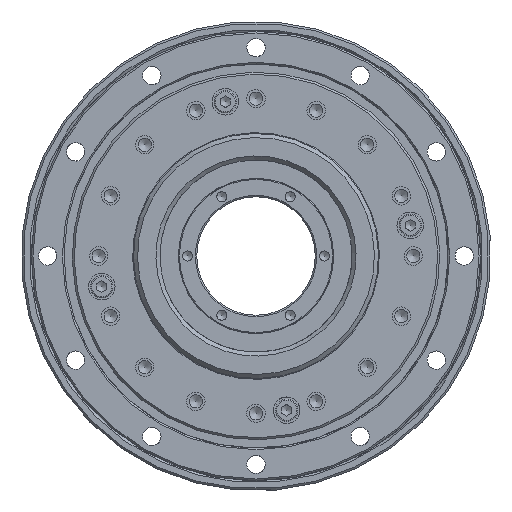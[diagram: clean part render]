
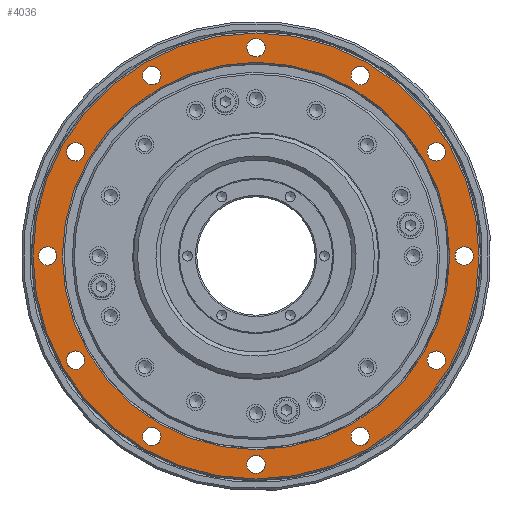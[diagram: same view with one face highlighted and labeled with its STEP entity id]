
A CAD part, left-side view. The second image highlights one B-rep face of the part: STEP entity #4036.
In plain terms, the highlighted planar face has unit normal (-1, 0, 0).
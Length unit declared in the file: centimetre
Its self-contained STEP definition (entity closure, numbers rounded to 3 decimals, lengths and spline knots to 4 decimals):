
#834=FACE_BOUND($,#1644,.T.);
#835=FACE_BOUND($,#1645,.T.);
#836=FACE_BOUND($,#1646,.T.);
#837=FACE_BOUND($,#1647,.T.);
#838=FACE_BOUND($,#1648,.T.);
#839=FACE_BOUND($,#1649,.T.);
#840=FACE_BOUND($,#1650,.T.);
#841=FACE_BOUND($,#1651,.T.);
#842=FACE_BOUND($,#1652,.T.);
#843=FACE_BOUND($,#1653,.T.);
#844=FACE_BOUND($,#1654,.T.);
#845=FACE_BOUND($,#1655,.T.);
#846=FACE_BOUND($,#1656,.T.);
#847=FACE_BOUND($,#1657,.T.);
#1644=EDGE_LOOP($,(#3428));
#1645=EDGE_LOOP($,(#3429));
#1646=EDGE_LOOP($,(#3430));
#1647=EDGE_LOOP($,(#3431));
#1648=EDGE_LOOP($,(#3432));
#1649=EDGE_LOOP($,(#3433));
#1650=EDGE_LOOP($,(#3434));
#1651=EDGE_LOOP($,(#3435));
#1652=EDGE_LOOP($,(#3436));
#1653=EDGE_LOOP($,(#3437));
#1654=EDGE_LOOP($,(#3438));
#1655=EDGE_LOOP($,(#3439));
#1656=EDGE_LOOP($,(#3440));
#1657=EDGE_LOOP($,(#3441));
#1979=CIRCLE($,#4554,0.225);
#1981=CIRCLE($,#4557,0.225);
#1983=CIRCLE($,#4560,0.225);
#1985=CIRCLE($,#4563,0.225);
#1987=CIRCLE($,#4566,0.225);
#1989=CIRCLE($,#4569,0.225);
#1991=CIRCLE($,#4572,0.225);
#1993=CIRCLE($,#4575,0.225);
#1995=CIRCLE($,#4578,0.225);
#1997=CIRCLE($,#4581,0.225);
#1999=CIRCLE($,#4584,0.225);
#2001=CIRCLE($,#4587,0.225);
#2002=CIRCLE($,#4589,4.74);
#2003=CIRCLE($,#4591,5.46);
#2301=VERTEX_POINT($,#6840);
#2303=VERTEX_POINT($,#6845);
#2305=VERTEX_POINT($,#6850);
#2307=VERTEX_POINT($,#6855);
#2309=VERTEX_POINT($,#6860);
#2311=VERTEX_POINT($,#6865);
#2313=VERTEX_POINT($,#6870);
#2315=VERTEX_POINT($,#6875);
#2317=VERTEX_POINT($,#6880);
#2319=VERTEX_POINT($,#6885);
#2321=VERTEX_POINT($,#6890);
#2323=VERTEX_POINT($,#6895);
#2324=VERTEX_POINT($,#6898);
#2325=VERTEX_POINT($,#6901);
#2697=EDGE_CURVE($,#2301,#2301,#1979,.T.);
#2699=EDGE_CURVE($,#2303,#2303,#1981,.T.);
#2701=EDGE_CURVE($,#2305,#2305,#1983,.T.);
#2703=EDGE_CURVE($,#2307,#2307,#1985,.T.);
#2705=EDGE_CURVE($,#2309,#2309,#1987,.T.);
#2707=EDGE_CURVE($,#2311,#2311,#1989,.T.);
#2709=EDGE_CURVE($,#2313,#2313,#1991,.T.);
#2711=EDGE_CURVE($,#2315,#2315,#1993,.T.);
#2713=EDGE_CURVE($,#2317,#2317,#1995,.T.);
#2715=EDGE_CURVE($,#2319,#2319,#1997,.T.);
#2717=EDGE_CURVE($,#2321,#2321,#1999,.T.);
#2719=EDGE_CURVE($,#2323,#2323,#2001,.T.);
#2720=EDGE_CURVE($,#2324,#2324,#2002,.T.);
#2721=EDGE_CURVE($,#2325,#2325,#2003,.T.);
#3428=ORIENTED_EDGE($,*,*,#2697,.T.);
#3429=ORIENTED_EDGE($,*,*,#2699,.T.);
#3430=ORIENTED_EDGE($,*,*,#2701,.T.);
#3431=ORIENTED_EDGE($,*,*,#2703,.T.);
#3432=ORIENTED_EDGE($,*,*,#2705,.T.);
#3433=ORIENTED_EDGE($,*,*,#2707,.T.);
#3434=ORIENTED_EDGE($,*,*,#2709,.T.);
#3435=ORIENTED_EDGE($,*,*,#2711,.T.);
#3436=ORIENTED_EDGE($,*,*,#2713,.T.);
#3437=ORIENTED_EDGE($,*,*,#2715,.T.);
#3438=ORIENTED_EDGE($,*,*,#2717,.T.);
#3439=ORIENTED_EDGE($,*,*,#2719,.T.);
#3440=ORIENTED_EDGE($,*,*,#2721,.F.);
#3441=ORIENTED_EDGE($,*,*,#2720,.F.);
#3749=PLANE($,#4590);
#4036=ADVANCED_FACE($,(#834,#835,#836,#837,#838,#839,#840,#841,#842,#843,
#844,#845,#846,#847),#3749,.T.);
#4554=AXIS2_PLACEMENT_3D($,#6841,#5641,#5642);
#4557=AXIS2_PLACEMENT_3D($,#6846,#5647,#5648);
#4560=AXIS2_PLACEMENT_3D($,#6851,#5653,#5654);
#4563=AXIS2_PLACEMENT_3D($,#6856,#5659,#5660);
#4566=AXIS2_PLACEMENT_3D($,#6861,#5665,#5666);
#4569=AXIS2_PLACEMENT_3D($,#6866,#5671,#5672);
#4572=AXIS2_PLACEMENT_3D($,#6871,#5677,#5678);
#4575=AXIS2_PLACEMENT_3D($,#6876,#5683,#5684);
#4578=AXIS2_PLACEMENT_3D($,#6881,#5689,#5690);
#4581=AXIS2_PLACEMENT_3D($,#6886,#5695,#5696);
#4584=AXIS2_PLACEMENT_3D($,#6891,#5701,#5702);
#4587=AXIS2_PLACEMENT_3D($,#6896,#5707,#5708);
#4589=AXIS2_PLACEMENT_3D($,#6899,#5711,#5712);
#4590=AXIS2_PLACEMENT_3D($,#6900,#5713,#5714);
#4591=AXIS2_PLACEMENT_3D($,#6902,#5715,#5716);
#5641=DIRECTION('center_axis',(1.,0.,0.));
#5642=DIRECTION('ref_axis',(0.,0.,-1.));
#5647=DIRECTION('center_axis',(1.,0.,0.));
#5648=DIRECTION('ref_axis',(0.,0.,-1.));
#5653=DIRECTION('center_axis',(1.,0.,0.));
#5654=DIRECTION('ref_axis',(0.,0.,-1.));
#5659=DIRECTION('center_axis',(1.,0.,0.));
#5660=DIRECTION('ref_axis',(0.,0.,-1.));
#5665=DIRECTION('center_axis',(1.,0.,0.));
#5666=DIRECTION('ref_axis',(0.,0.,-1.));
#5671=DIRECTION('center_axis',(1.,0.,0.));
#5672=DIRECTION('ref_axis',(0.,0.,-1.));
#5677=DIRECTION('center_axis',(1.,0.,0.));
#5678=DIRECTION('ref_axis',(0.,0.,-1.));
#5683=DIRECTION('center_axis',(1.,0.,0.));
#5684=DIRECTION('ref_axis',(0.,0.,-1.));
#5689=DIRECTION('center_axis',(1.,0.,0.));
#5690=DIRECTION('ref_axis',(0.,0.,-1.));
#5695=DIRECTION('center_axis',(1.,0.,0.));
#5696=DIRECTION('ref_axis',(0.,0.,-1.));
#5701=DIRECTION('center_axis',(1.,0.,0.));
#5702=DIRECTION('ref_axis',(0.,0.,-1.));
#5707=DIRECTION('center_axis',(1.,0.,0.));
#5708=DIRECTION('ref_axis',(0.,0.,-1.));
#5711=DIRECTION('center_axis',(-1.,0.,0.));
#5712=DIRECTION('ref_axis',(0.,0.,-1.));
#5713=DIRECTION('center_axis',(-1.,0.,0.));
#5714=DIRECTION('ref_axis',(0.,0.,1.));
#5715=DIRECTION('center_axis',(1.,0.,0.));
#5716=DIRECTION('ref_axis',(0.,0.,-1.));
#6840=CARTESIAN_POINT('',(-1.87,-4.4167,-2.325));
#6841=CARTESIAN_POINT('Origin',(-1.87,-4.4167,-2.55));
#6845=CARTESIAN_POINT('',(-1.87,-4.4167,2.775));
#6846=CARTESIAN_POINT('Origin',(-1.87,-4.4167,2.55));
#6850=CARTESIAN_POINT('',(-1.87,0.,5.325));
#6851=CARTESIAN_POINT('Origin',(-1.87,0.,5.1));
#6855=CARTESIAN_POINT('',(-1.87,4.4167,2.775));
#6856=CARTESIAN_POINT('Origin',(-1.87,4.4167,2.55));
#6860=CARTESIAN_POINT('',(-1.87,4.4167,-2.325));
#6861=CARTESIAN_POINT('Origin',(-1.87,4.4167,-2.55));
#6865=CARTESIAN_POINT('',(-1.87,0.,-4.875));
#6866=CARTESIAN_POINT('Origin',(-1.87,0.,-5.1));
#6870=CARTESIAN_POINT('',(-1.87,2.55,-4.1917));
#6871=CARTESIAN_POINT('Origin',(-1.87,2.55,-4.4167));
#6875=CARTESIAN_POINT('',(-1.87,5.1,0.225));
#6876=CARTESIAN_POINT('Origin',(-1.87,5.1,0.));
#6880=CARTESIAN_POINT('',(-1.87,2.55,4.6417));
#6881=CARTESIAN_POINT('Origin',(-1.87,2.55,4.4167));
#6885=CARTESIAN_POINT('',(-1.87,-2.55,4.6417));
#6886=CARTESIAN_POINT('Origin',(-1.87,-2.55,4.4167));
#6890=CARTESIAN_POINT('',(-1.87,-5.1,0.225));
#6891=CARTESIAN_POINT('Origin',(-1.87,-5.1,0.));
#6895=CARTESIAN_POINT('',(-1.87,-2.55,-4.1917));
#6896=CARTESIAN_POINT('Origin',(-1.87,-2.55,-4.4167));
#6898=CARTESIAN_POINT('',(-1.87,0.,4.74));
#6899=CARTESIAN_POINT('Origin',(-1.87,0.,0.));
#6900=CARTESIAN_POINT('Origin',(-1.87,0.,4.7));
#6901=CARTESIAN_POINT('',(-1.87,0.,5.46));
#6902=CARTESIAN_POINT('Origin',(-1.87,0.,0.));
